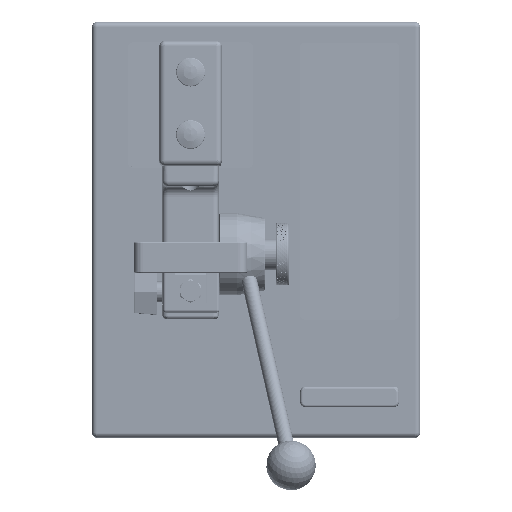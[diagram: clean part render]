
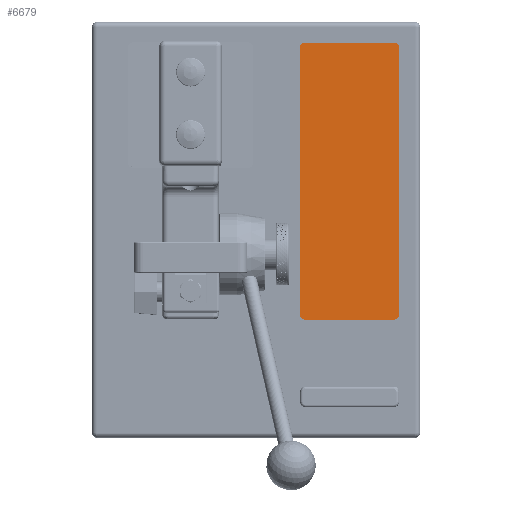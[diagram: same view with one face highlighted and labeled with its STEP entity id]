
A CAD part, top view. The second image highlights one B-rep face of the part: STEP entity #6679.
In plain terms, the highlighted planar face has unit normal (0, 0, 1).
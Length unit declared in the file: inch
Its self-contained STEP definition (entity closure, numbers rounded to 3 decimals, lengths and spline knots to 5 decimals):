
#5820=CARTESIAN_POINT('',(38.11189,43.90354,7.229));
#5821=VERTEX_POINT('',#5820);
#5836=CARTESIAN_POINT('',(38.11189,50.31354,7.229));
#5837=VERTEX_POINT('',#5836);
#5844=CARTESIAN_POINT('',(38.11189,50.31354,7.229));
#5845=DIRECTION('',(0.0,-1.0,0.0));
#5846=VECTOR('',#5845,6.41);
#5847=LINE('',#5844,#5846);
#5848=EDGE_CURVE('',#5837,#5821,#5847,.T.);
#6562=CARTESIAN_POINT('',(35.83689,50.43854,7.229));
#6563=VERTEX_POINT('',#6562);
#6564=CARTESIAN_POINT('',(35.71189,50.31354,7.229));
#6565=VERTEX_POINT('',#6564);
#6566=CARTESIAN_POINT('',(35.83689,50.31354,7.229));
#6567=DIRECTION('',(0.0,0.0,1.));
#6568=DIRECTION('',(-0.707,0.707,0.0));
#6569=AXIS2_PLACEMENT_3D('',#6566,#6567,#6568);
#6570=CIRCLE('',#6569,0.125);
#6571=EDGE_CURVE('',#6563,#6565,#6570,.T.);
#6606=CARTESIAN_POINT('',(37.98689,50.43854,7.229));
#6607=VERTEX_POINT('',#6606);
#6621=CARTESIAN_POINT('',(35.83689,50.43854,7.229));
#6622=DIRECTION('',(1.0,0.0,0.0));
#6623=VECTOR('',#6622,2.15);
#6624=LINE('',#6621,#6623);
#6625=EDGE_CURVE('',#6563,#6607,#6624,.T.);
#6630=CARTESIAN_POINT('',(36.91189,47.10854,7.229));
#6631=DIRECTION('',(0.0,0.0,1.0));
#6632=DIRECTION('',(1.0,0.0,0.0));
#6633=AXIS2_PLACEMENT_3D('',#6630,#6631,#6632);
#6634=PLANE('',#6633);
#6635=CARTESIAN_POINT('',(37.98689,43.77854,7.229));
#6636=VERTEX_POINT('',#6635);
#6637=CARTESIAN_POINT('',(37.98689,43.90354,7.229));
#6638=DIRECTION('',(0.0,0.0,1.));
#6639=DIRECTION('',(0.707,-0.707,0.0));
#6640=AXIS2_PLACEMENT_3D('',#6637,#6638,#6639);
#6641=CIRCLE('',#6640,0.125);
#6642=EDGE_CURVE('',#6636,#5821,#6641,.T.);
#6643=ORIENTED_EDGE('',*,*,#6642,.T.);
#6644=ORIENTED_EDGE('',*,*,#5848,.F.);
#6645=CARTESIAN_POINT('',(37.98689,50.31354,7.229));
#6646=DIRECTION('',(0.0,0.0,1.));
#6647=DIRECTION('',(0.707,0.707,0.0));
#6648=AXIS2_PLACEMENT_3D('',#6645,#6646,#6647);
#6649=CIRCLE('',#6648,0.125);
#6650=EDGE_CURVE('',#5837,#6607,#6649,.T.);
#6651=ORIENTED_EDGE('',*,*,#6650,.T.);
#6652=ORIENTED_EDGE('',*,*,#6625,.F.);
#6653=ORIENTED_EDGE('',*,*,#6571,.T.);
#6654=CARTESIAN_POINT('',(35.71189,43.90354,7.229));
#6655=VERTEX_POINT('',#6654);
#6656=CARTESIAN_POINT('',(35.71189,43.90354,7.229));
#6657=DIRECTION('',(0.0,1.0,0.0));
#6658=VECTOR('',#6657,6.41);
#6659=LINE('',#6656,#6658);
#6660=EDGE_CURVE('',#6655,#6565,#6659,.T.);
#6661=ORIENTED_EDGE('',*,*,#6660,.F.);
#6662=CARTESIAN_POINT('',(35.83689,43.77854,7.229));
#6663=VERTEX_POINT('',#6662);
#6664=CARTESIAN_POINT('',(35.83689,43.90354,7.229));
#6665=DIRECTION('',(0.0,0.0,1.));
#6666=DIRECTION('',(-0.707,-0.707,0.0));
#6667=AXIS2_PLACEMENT_3D('',#6664,#6665,#6666);
#6668=CIRCLE('',#6667,0.125);
#6669=EDGE_CURVE('',#6655,#6663,#6668,.T.);
#6670=ORIENTED_EDGE('',*,*,#6669,.T.);
#6671=CARTESIAN_POINT('',(37.98689,43.77854,7.229));
#6672=DIRECTION('',(-1.0,0.0,0.0));
#6673=VECTOR('',#6672,2.15);
#6674=LINE('',#6671,#6673);
#6675=EDGE_CURVE('',#6636,#6663,#6674,.T.);
#6676=ORIENTED_EDGE('',*,*,#6675,.F.);
#6677=EDGE_LOOP('',(#6643,#6644,#6651,#6652,#6653,#6661,#6670,#6676));
#6678=FACE_OUTER_BOUND('',#6677,.T.);
#6679=ADVANCED_FACE('',(#6678),#6634,.T.);
